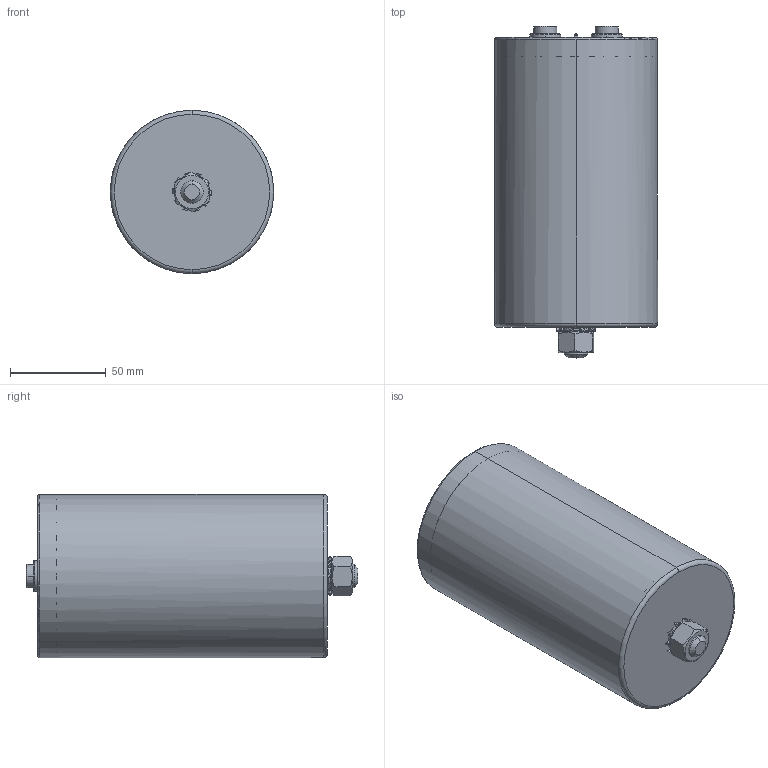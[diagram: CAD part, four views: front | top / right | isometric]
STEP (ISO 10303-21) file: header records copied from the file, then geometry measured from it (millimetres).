
FILE_DESCRIPTION (( 'STEP AP214' ), '1' );
FILE_NAME ('B25695 D85 Hc151 Ht157.STEP', '2024-06-04T08:51:22', ( '' ), ( '' ), 'SwSTEP 2.0', 'SolidWorks 2019', '' );
FILE_SCHEMA (( 'AUTOMOTIVE_DESIGN' ));
Length unit declared in the file: millimetre
Products named in the file (1): B25695 D85 Hc151 Ht157
Bounding box: 85 x 173 x 85 mm (x, y, z)
Volume: 115544.5 mm3; surface area: 117464.5 mm2
Topology: 1 solids, 2 shells, 275 faces, 754 edges, 488 vertices
Faces by surface type: plane 88, cylinder 70, cone 47, bspline 40, torus 30
Entity records: 9636 total; most frequent: CARTESIAN_POINT 3070, ORIENTED_EDGE 1500, DIRECTION 1212, EDGE_CURVE 750, VERTEX_POINT 488, AXIS2_PLACEMENT_3D 472, EDGE_LOOP 304, FACE_OUTER_BOUND 275
